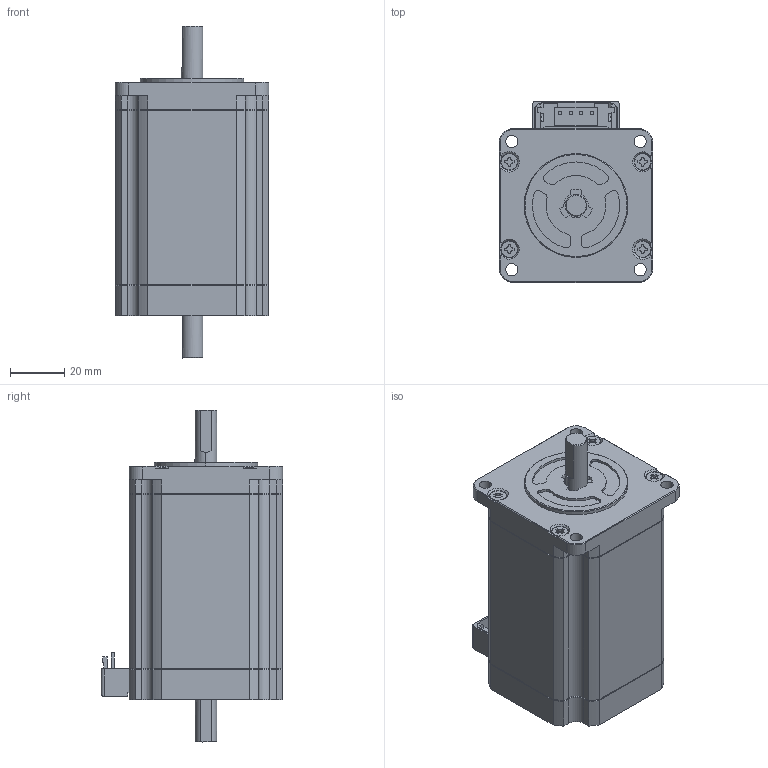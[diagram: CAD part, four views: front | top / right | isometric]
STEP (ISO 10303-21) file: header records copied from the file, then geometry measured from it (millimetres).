
FILE_DESCRIPTION (( 'STEP AP203' ), '1' );
FILE_NAME ('SM2564C10B11.STEP', '2021-05-07T07:29:13', ( '' ), ( '' ), 'SwSTEP 2.0', 'SolidWorks 2019', '' );
FILE_SCHEMA (( 'CONFIG_CONTROL_DESIGN' ));
Length unit declared in the file: millimetre
Products named in the file (11): SM2564C10B11; Copy of CONNECTOR^Copy of TERMINAL_01124157; Copy of SCREW^01124157; Copy of STATOR^01124157; Copy of FRONT COVER^01124157; Copy of REAR COVER^01124157; Copy of INSULATOR_REAR^01124157_コネクタタイプ（10.1L）; Copy of SUBSTRATE^Copy of TERMINAL_01124157; Copy of OUTPUT SHAFT^01124157; Copy of COUNTER SHAFT^01124157; Copy of TERMINAL^01124157
Assembly tree (13 placements, depth 3):
  SM2564C10B11
    Copy of FRONT COVER^01124157
    Copy of STATOR^01124157
    Copy of INSULATOR_REAR^01124157_コネクタタイプ（10.1L）
    Copy of TERMINAL^01124157
      Copy of SUBSTRATE^Copy of TERMINAL_01124157
      Copy of CONNECTOR^Copy of TERMINAL_01124157
    Copy of REAR COVER^01124157
    Copy of COUNTER SHAFT^01124157
    Copy of OUTPUT SHAFT^01124157
    Copy of SCREW^01124157  x4
Bounding box: 56.4 x 66.6 x 121.9 mm (x, y, z)
Volume: 265939.4 mm3; surface area: 47204 mm2
Topology: 12 solids, 12 shells, 606 faces, 1576 edges, 1016 vertices
Faces by surface type: plane 385, cylinder 158, cone 63
Entity records: 17685 total; most frequent: CARTESIAN_POINT 3014, ORIENTED_EDGE 2804, DIRECTION 2796, EDGE_CURVE 1402, LINE 1012, VECTOR 1012, VERTEX_POINT 902, AXIS2_PLACEMENT_3D 892
